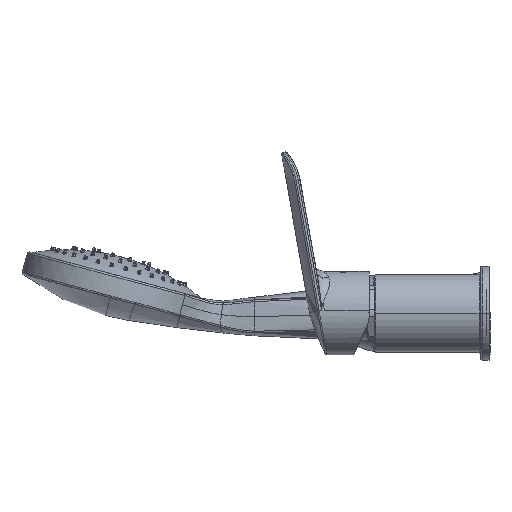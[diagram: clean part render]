
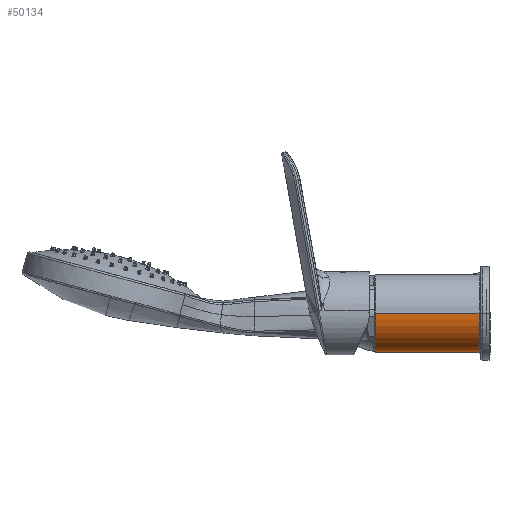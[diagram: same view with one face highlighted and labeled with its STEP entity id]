
A CAD part, left-side view. The second image highlights one B-rep face of the part: STEP entity #50134.
In plain terms, the highlighted cylindrical face has radius 20.5 mm (diameter 41 mm), a partial arc.
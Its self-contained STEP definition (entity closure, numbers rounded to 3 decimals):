
#42385=CARTESIAN_POINT('',(-150.,5.8,0.));
#42386=DIRECTION('',(0.,1.,0.));
#42387=DIRECTION('',(1.,0.,0.));
#42388=AXIS2_PLACEMENT_3D('',#42385,#42386,#42387);
#42390=CARTESIAN_POINT('',(-150.,60.5,0.));
#42391=DIRECTION('',(0.,-1.,0.));
#42392=DIRECTION('',(-1.,0.,0.));
#42393=AXIS2_PLACEMENT_3D('',#42390,#42391,#42392);
#43490=DIRECTION('',(0.,-1.,0.));
#43491=VECTOR('',#43490,54.7);
#43492=CARTESIAN_POINT('',(-170.5,60.5,
0.));
#43493=LINE('',#43492,#43491);
#43499=DIRECTION('',(0.,-1.,0.));
#43500=VECTOR('',#43499,54.7);
#43501=CARTESIAN_POINT('',(-129.5,60.5,
0.));
#43502=LINE('',#43501,#43500);
#47121=CARTESIAN_POINT('',(-170.5,5.8,0.));
#47122=CARTESIAN_POINT('',(-129.5,5.8,0.));
#47123=VERTEX_POINT('',#47121);
#47124=VERTEX_POINT('',#47122);
#47285=CARTESIAN_POINT('',(-170.5,60.5,0.));
#47286=CARTESIAN_POINT('',(-129.5,60.5,0.));
#47287=VERTEX_POINT('',#47285);
#47288=VERTEX_POINT('',#47286);
#50120=CARTESIAN_POINT('',(-150.,-3.05,0.));
#50121=DIRECTION('',(0.,1.,0.));
#50122=DIRECTION('',(-1.,0.,0.));
#50123=AXIS2_PLACEMENT_3D('',#50120,#50121,#50122);
#50124=CYLINDRICAL_SURFACE('',#50123,20.5);
#50126=ORIENTED_EDGE('',*,*,#50125,.F.);
#50128=ORIENTED_EDGE('',*,*,#50127,.F.);
#50129=ORIENTED_EDGE('',*,*,#50110,.F.);
#50131=ORIENTED_EDGE('',*,*,#50130,.T.);
#50132=EDGE_LOOP('',(#50126,#50128,#50129,#50131));
#50133=FACE_OUTER_BOUND('',#50132,.F.);
#50134=ADVANCED_FACE('',(#50133),#50124,.T.);
#42389=CIRCLE('',#42388,20.5);
#42394=CIRCLE('',#42393,20.5);
#50110=EDGE_CURVE('',#47287,#47288,#42394,.T.);
#50125=EDGE_CURVE('',#47124,#47123,#42389,.T.);
#50127=EDGE_CURVE('',#47288,#47124,#43502,.T.);
#50130=EDGE_CURVE('',#47287,#47123,#43493,.T.);
